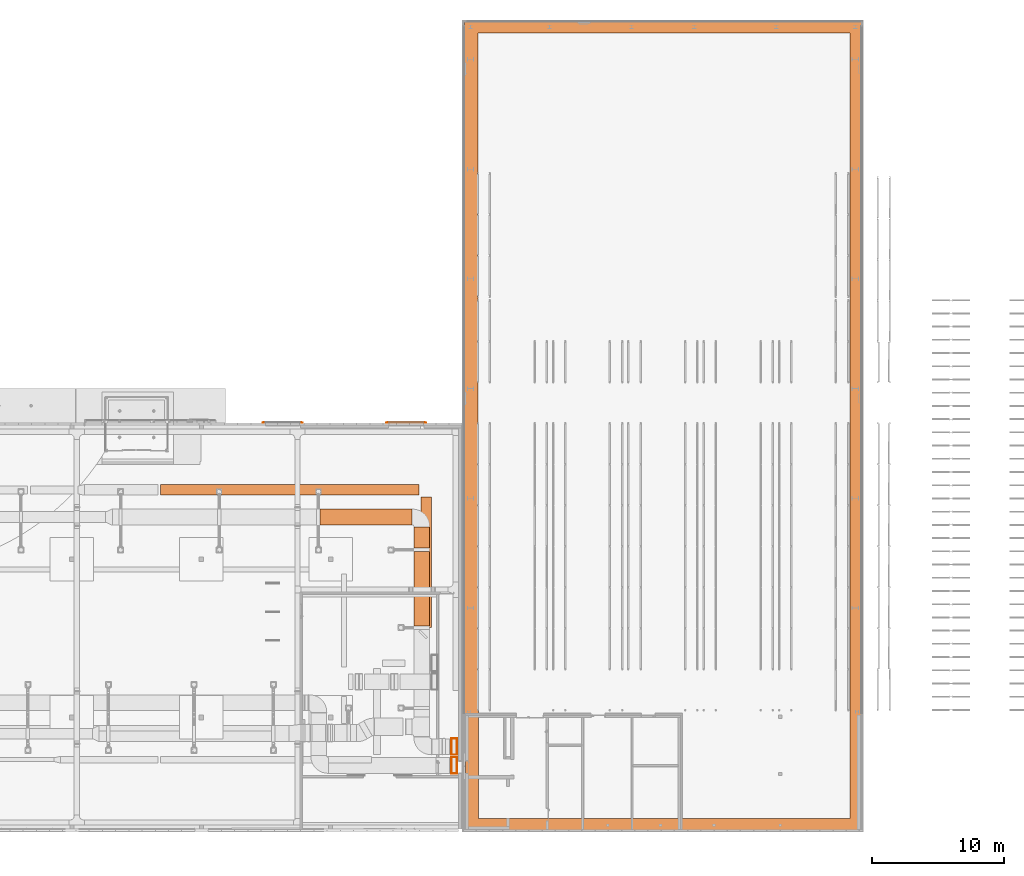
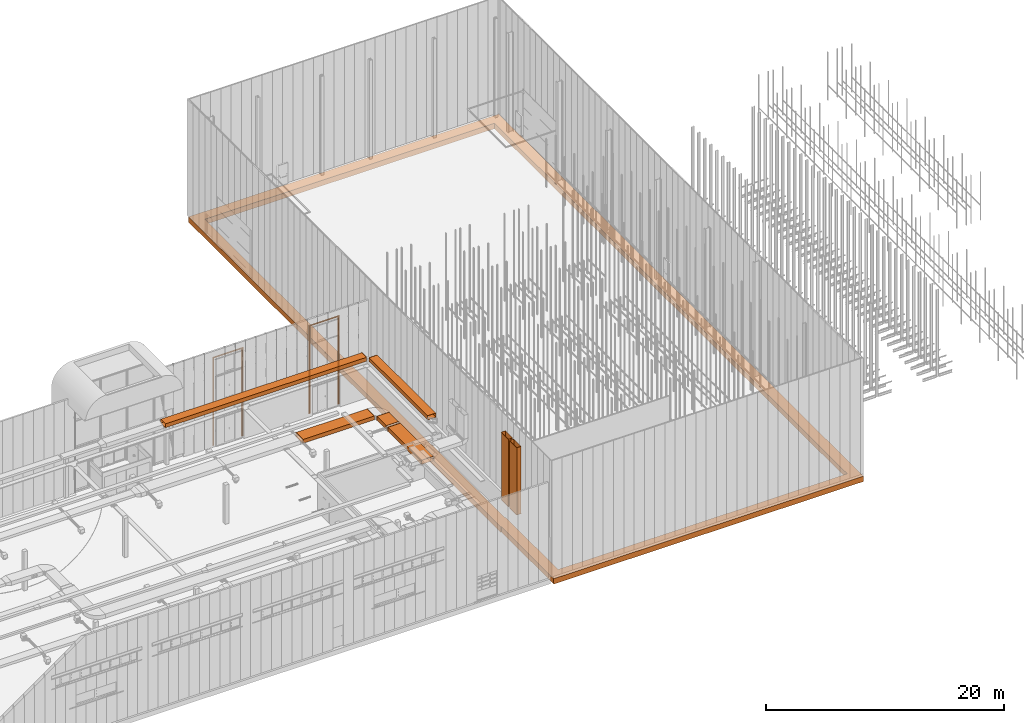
# One storey, part 301 of 302: 11 proxies.
"""IFC2X3 building model written with IfcOpenShell, lengths in metres."""

from ifc_helpers import new_model, entity, si_unit, converted_unit, derived_unit, direction, frame, origin, place, context, subcontext, project, spatial, face_set, faceted_brep, surface_model, source, transform, mapped, material, type_object, type_shapes, element, save


model = new_model("IFC2X3")

# Units and contexts
model_context = context("Model", 3, precision=1e-05, world=origin(), true_north=direction((6.12303176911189e-17, 1.0)))
body_context = subcontext(model_context, "Body", "Model", "MODEL_VIEW")
ifc_project = project(units=[si_unit("LENGTHUNIT", "METRE"), si_unit("AREAUNIT", "SQUARE_METRE"), si_unit("VOLUMEUNIT", "CUBIC_METRE"), converted_unit("PLANEANGLEUNIT", "DEGREE", entity("IfcRatioMeasure", 0.0174532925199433), si_unit("PLANEANGLEUNIT", "RADIAN"), dimensions=[0, 0, 0, 0, 0, 0, 0]), si_unit("MASSUNIT", "GRAM", prefix="KILO"), derived_unit("MASSDENSITYUNIT", [(si_unit("MASSUNIT", "GRAM", prefix="KILO"), 1), (si_unit("LENGTHUNIT", "METRE"), -3)]), derived_unit("MOMENTOFINERTIAUNIT", [(si_unit("LENGTHUNIT", "METRE"), 4)]), si_unit("TIMEUNIT", "SECOND"), si_unit("FREQUENCYUNIT", "HERTZ"), si_unit("THERMODYNAMICTEMPERATUREUNIT", "DEGREE_CELSIUS"), derived_unit("THERMALTRANSMITTANCEUNIT", [(si_unit("MASSUNIT", "GRAM", prefix="KILO"), 1), (si_unit("THERMODYNAMICTEMPERATUREUNIT", "KELVIN"), -1), (si_unit("TIMEUNIT", "SECOND"), -3)]), derived_unit("VOLUMETRICFLOWRATEUNIT", [(si_unit("LENGTHUNIT", "METRE"), 3), (si_unit("TIMEUNIT", "SECOND"), -1)]), si_unit("ELECTRICCURRENTUNIT", "AMPERE"), si_unit("ELECTRICVOLTAGEUNIT", "VOLT"), si_unit("POWERUNIT", "WATT"), si_unit("FORCEUNIT", "NEWTON", prefix="KILO"), si_unit("ILLUMINANCEUNIT", "LUX"), si_unit("LUMINOUSFLUXUNIT", "LUMEN"), si_unit("LUMINOUSINTENSITYUNIT", "CANDELA"), derived_unit("USERDEFINED", [(si_unit("MASSUNIT", "GRAM", prefix="KILO"), -1), (si_unit("LENGTHUNIT", "METRE"), -2), (si_unit("TIMEUNIT", "SECOND"), 3), (si_unit("LUMINOUSFLUXUNIT", "LUMEN"), 1)]), derived_unit("LINEARVELOCITYUNIT", [(si_unit("LENGTHUNIT", "METRE"), 1), (si_unit("TIMEUNIT", "SECOND"), -1)]), si_unit("PRESSUREUNIT", "PASCAL"), derived_unit("USERDEFINED", [(si_unit("LENGTHUNIT", "METRE"), -2), (si_unit("MASSUNIT", "GRAM", prefix="KILO"), 1), (si_unit("TIMEUNIT", "SECOND"), -2)]), derived_unit("LINEARFORCEUNIT", [(si_unit("MASSUNIT", "GRAM", prefix="KILO"), 1), (si_unit("LENGTHUNIT", "METRE"), 1), (si_unit("TIMEUNIT", "SECOND"), -2), (si_unit("LENGTHUNIT", "METRE"), -1)]), derived_unit("PLANARFORCEUNIT", [(si_unit("MASSUNIT", "GRAM", prefix="KILO"), 1), (si_unit("LENGTHUNIT", "METRE"), 1), (si_unit("TIMEUNIT", "SECOND"), -2), (si_unit("LENGTHUNIT", "METRE"), -2)])], contexts=[model_context])

# Site, building, storey
site_placement = place(None, origin())
site = spatial("IfcSite", under=ifc_project, at=site_placement, Name="Default", CompositionType="ELEMENT")
building_placement = place(site_placement, origin())
building = spatial("IfcBuilding", under=site, at=building_placement, CompositionType="ELEMENT")
storey_placement = place(building_placement, frame((0.0, 0.0, -1.3)))
storey = spatial("IfcBuildingStorey", under=building, at=storey_placement, Name="00_EG", CompositionType="ELEMENT", Elevation=-1.3)

# Proxies
ifc_material = material(Name="<Unnamed>")
building_element_proxy_type_1 = type_object("IfcBuildingElementProxyType", Name="Fesnterrahmen:Fesnterrahmen", PredefinedType="NOTDEFINED", material=ifc_material)
shared_shape_1 = source(origin(), body_context, "Body", "Brep", [
    faceted_brep([(2.92079999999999, 0.00500000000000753, 0.0), (3.01160000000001, 0.00499999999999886, 0.0), (3.01160000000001, 0.0, 0.0), (2.91580000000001, 0.0, 0.0), (2.91579999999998, 0.0300000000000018, 0.0), (2.82080000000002, 0.0300000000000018, 0.0), (2.82079999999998, 0.0350000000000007, 0.0), (2.92079999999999, 0.0350000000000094, 0.0), (2.92079999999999, 0.00500000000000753, 9.05964751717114), (0.090800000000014, 0.00500000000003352, 9.05964751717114), (0.090800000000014, 0.00500000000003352, 0.0), (0.0, 0.00499999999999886, 0.0), (0.0, 0.00499999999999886, 9.15044751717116), (3.01160000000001, 0.00499999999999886, 9.15044751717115), (3.01160000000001, 0.0, 9.15044751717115), (0.0, 0.0, 9.15044751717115), (0.0, 0.0, 0.0), (0.0957999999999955, 0.0, 0.0), (0.0957999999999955, 0.0, 9.05464751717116), (2.91580000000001, 0.0, 9.05464751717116), (2.91579999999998, 0.0300000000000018, 9.05464751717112), (0.0958000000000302, 0.0300000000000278, 9.05464751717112), (0.0958000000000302, 0.0300000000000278, 0.0), (0.190799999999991, 0.0300000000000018, 0.0), (0.190799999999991, 0.0300000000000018, 8.95964751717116), (2.82080000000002, 0.0300000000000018, 8.95964751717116), (2.82079999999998, 0.0350000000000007, 8.95964751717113), (0.190800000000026, 0.035000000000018, 8.95964751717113), (0.190800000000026, 0.035000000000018, 0.0), (0.090800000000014, 0.0350000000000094, 0.0), (0.090800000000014, 0.0350000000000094, 9.05964751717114), (2.92079999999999, 0.0350000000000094, 9.05964751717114)], [[[0, 1, 2, 3, 4, 5, 6, 7]], [[1, 0, 8, 9, 10, 11, 12, 13]], [[2, 1, 13, 14]], [[3, 2, 14, 15, 16, 17, 18, 19]], [[4, 3, 19, 20]], [[5, 4, 20, 21, 22, 23, 24, 25]], [[6, 5, 25, 26]], [[7, 6, 26, 27, 28, 29, 30, 31]], [[0, 7, 31, 8]], [[14, 13, 12, 15]], [[20, 19, 18, 21]], [[26, 25, 24, 27]], [[8, 31, 30, 9]], [[10, 29, 28, 23, 22, 17, 16, 11]], [[15, 12, 11, 16]], [[21, 18, 17, 22]], [[27, 24, 23, 28]], [[9, 30, 29, 10]]]),
])
type_shapes(building_element_proxy_type_1, [shared_shape_1])
proxy_1_placement = place(storey_placement, frame((-213.360911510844, 45.738088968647, 1.27)))
element("IfcBuildingElementProxy", 1, at=proxy_1_placement, inside=storey, type_object=building_element_proxy_type_1, material=ifc_material, Name="Fesnterrahmen:Fesnterrahmen", ObjectType="Fesnterrahmen:Fesnterrahmen", context=body_context, shape_type="MappedRepresentation", body=[
    mapped(shared_shape_1, transform((0.0, 0.0, 0.0), scale=1.0)),
])
building_element_proxy_type_2 = type_object("IfcBuildingElementProxyType", Name="Fesnterrahmen1:Fesnterrahmen", PredefinedType="NOTDEFINED", material=ifc_material)
shared_shape_2 = source(origin(), body_context, "Body", "Brep", [
    faceted_brep([(2.92079999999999, 0.00500000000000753, 0.0), (3.01160000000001, 0.00499999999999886, 0.0), (3.01160000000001, 0.0, 0.0), (2.91580000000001, 0.0, 0.0), (2.91579999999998, 0.0300000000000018, 0.0), (2.82080000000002, 0.0300000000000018, 0.0), (2.82079999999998, 0.0350000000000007, 0.0), (2.92079999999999, 0.0350000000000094, 0.0), (2.92079999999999, 0.00500000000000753, 9.05964751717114), (0.090800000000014, 0.00500000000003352, 9.05964751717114), (0.090800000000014, 0.00500000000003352, 0.0), (0.0, 0.00499999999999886, 0.0), (0.0, 0.00499999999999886, 9.15044751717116), (3.01160000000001, 0.00499999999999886, 9.15044751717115), (3.01160000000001, 0.0, 9.15044751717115), (0.0, 0.0, 9.15044751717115), (0.0, 0.0, 0.0), (0.0957999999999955, 0.0, 0.0), (0.0957999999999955, 0.0, 9.05464751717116), (2.91580000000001, 0.0, 9.05464751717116), (2.91579999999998, 0.0300000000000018, 9.05464751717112), (0.0958000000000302, 0.0300000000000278, 9.05464751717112), (0.0958000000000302, 0.0300000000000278, 0.0), (0.190799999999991, 0.0300000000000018, 0.0), (0.190799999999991, 0.0300000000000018, 8.95964751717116), (2.82080000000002, 0.0300000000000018, 8.95964751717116), (2.82079999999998, 0.0350000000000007, 8.95964751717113), (0.190800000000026, 0.035000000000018, 8.95964751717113), (0.190800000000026, 0.035000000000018, 0.0), (0.090800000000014, 0.0350000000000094, 0.0), (0.090800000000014, 0.0350000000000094, 9.05964751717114), (2.92079999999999, 0.0350000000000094, 9.05964751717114)], [[[0, 1, 2, 3, 4, 5, 6, 7]], [[1, 0, 8, 9, 10, 11, 12, 13]], [[2, 1, 13, 14]], [[3, 2, 14, 15, 16, 17, 18, 19]], [[4, 3, 19, 20]], [[5, 4, 20, 21, 22, 23, 24, 25]], [[6, 5, 25, 26]], [[7, 6, 26, 27, 28, 29, 30, 31]], [[0, 7, 31, 8]], [[14, 13, 12, 15]], [[20, 19, 18, 21]], [[26, 25, 24, 27]], [[8, 31, 30, 9]], [[10, 29, 28, 23, 22, 17, 16, 11]], [[15, 12, 11, 16]], [[21, 18, 17, 22]], [[27, 24, 23, 28]], [[9, 30, 29, 10]]]),
])
type_shapes(building_element_proxy_type_2, [shared_shape_2])
proxy_2_placement = place(storey_placement, frame((-222.710911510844, 45.738088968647, 1.27)))
element("IfcBuildingElementProxy", 2, at=proxy_2_placement, inside=storey, type_object=building_element_proxy_type_2, material=ifc_material, Name="Fesnterrahmen1:Fesnterrahmen", ObjectType="Fesnterrahmen1:Fesnterrahmen", context=body_context, shape_type="MappedRepresentation", body=[
    mapped(shared_shape_2, transform((0.0, 0.0, 0.0), scale=1.0)),
])
building_element_proxy_type_3 = type_object("IfcBuildingElementProxyType", Name="Fesnterrahmen2:Fesnterrahmen", PredefinedType="NOTDEFINED", material=ifc_material)
shared_shape_3 = source(origin(), body_context, "Body", "Brep", [
    faceted_brep([(2.92079999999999, 0.00500000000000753, 0.0), (3.01160000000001, 0.00499999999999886, 0.0), (3.01160000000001, 0.0, 0.0), (2.91580000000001, 0.0, 0.0), (2.91579999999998, 0.0300000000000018, 0.0), (2.82080000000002, 0.0300000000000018, 0.0), (2.82079999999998, 0.0350000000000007, 0.0), (2.92079999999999, 0.0350000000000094, 0.0), (2.92079999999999, 0.00500000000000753, 9.05964751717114), (0.090800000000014, 0.00500000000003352, 9.05964751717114), (0.090800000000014, 0.00500000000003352, 0.0), (0.0, 0.00499999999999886, 0.0), (0.0, 0.00499999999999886, 9.15044751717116), (3.01160000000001, 0.00499999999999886, 9.15044751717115), (3.01160000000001, 0.0, 9.15044751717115), (0.0, 0.0, 9.15044751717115), (0.0, 0.0, 0.0), (0.0957999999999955, 0.0, 0.0), (0.0957999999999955, 0.0, 9.05464751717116), (2.91580000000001, 0.0, 9.05464751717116), (2.91579999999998, 0.0300000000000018, 9.05464751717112), (0.0958000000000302, 0.0300000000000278, 9.05464751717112), (0.0958000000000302, 0.0300000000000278, 0.0), (0.190799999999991, 0.0300000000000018, 0.0), (0.190799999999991, 0.0300000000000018, 8.95964751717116), (2.82080000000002, 0.0300000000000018, 8.95964751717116), (2.82079999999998, 0.0350000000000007, 8.95964751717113), (0.190800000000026, 0.035000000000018, 8.95964751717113), (0.190800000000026, 0.035000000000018, 0.0), (0.090800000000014, 0.0350000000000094, 0.0), (0.090800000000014, 0.0350000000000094, 9.05964751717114), (2.92079999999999, 0.0350000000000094, 9.05964751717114)], [[[0, 1, 2, 3, 4, 5, 6, 7]], [[1, 0, 8, 9, 10, 11, 12, 13]], [[2, 1, 13, 14]], [[3, 2, 14, 15, 16, 17, 18, 19]], [[4, 3, 19, 20]], [[5, 4, 20, 21, 22, 23, 24, 25]], [[6, 5, 25, 26]], [[7, 6, 26, 27, 28, 29, 30, 31]], [[0, 7, 31, 8]], [[14, 13, 12, 15]], [[20, 19, 18, 21]], [[26, 25, 24, 27]], [[8, 31, 30, 9]], [[10, 29, 28, 23, 22, 17, 16, 11]], [[15, 12, 11, 16]], [[21, 18, 17, 22]], [[27, 24, 23, 28]], [[9, 30, 29, 10]]]),
])
type_shapes(building_element_proxy_type_3, [shared_shape_3])
proxy_3_placement = place(storey_placement, frame((-213.360911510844, 45.738088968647, 1.27000000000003)))
element("IfcBuildingElementProxy", 3, at=proxy_3_placement, inside=storey, type_object=building_element_proxy_type_3, material=ifc_material, Name="Fesnterrahmen2:Fesnterrahmen", ObjectType="Fesnterrahmen2:Fesnterrahmen", context=body_context, shape_type="MappedRepresentation", body=[
    mapped(shared_shape_3, transform((0.0, 0.0, 0.0), scale=1.0)),
])
building_element_proxy_type_4 = type_object("IfcBuildingElementProxyType", Name="Plattenkante:Streifenfundament 550x1000", PredefinedType="NOTDEFINED")
proxy_4_placement = place(storey_placement, frame((-207.440723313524, 14.818088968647, 0.47)))
element("IfcBuildingElementProxy", 4, at=proxy_4_placement, inside=storey, type_object=building_element_proxy_type_4, Name="Plattenkante:Streifenfundament 550x1000", ObjectType="Plattenkante:Streifenfundament 550x1000", context=body_context, shape_type="Brep", body=[
    faceted_brep([(29.1706118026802, 1.0, 0.549999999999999), (30.1706118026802, 0.0, 0.549999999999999), (30.1706118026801, 61.39, 0.549999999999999), (29.1706118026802, 60.39, 0.549999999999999), (29.1706118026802, 1.0, 0.0), (29.1706118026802, 60.39, 0.0), (30.1706118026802, 0.0, 0.0), (30.1706118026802, 61.3900000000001, 0.0), (1.06061180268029, 9.81000000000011, 0.549999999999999), (0.0606118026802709, 8.81000000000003, 0.549999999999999), (0.0606118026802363, 0.0, 0.549999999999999), (1.06061180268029, 1.0, 0.549999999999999), (1.06061180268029, 9.81000000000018, 0.0), (1.06061180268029, 1.0, 0.0), (0.0606118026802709, 8.81000000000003, 0.0), (0.0606118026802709, 0.0, 0.0), (1.0, 9.81000000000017, 0.549999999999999), (0.0, 8.81000000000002, 0.549999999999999), (1.0, 9.81000000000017, 0.0), (0.0, 8.81000000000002, 0.0), (1.0, 60.3899999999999, 0.549999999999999), (0.0, 61.39, 0.549999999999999), (1.0, 60.39, 0.0), (0.0, 61.39, 0.0)], [[[0, 1, 2, 3]], [[4, 0, 3, 5]], [[6, 4, 5, 7]], [[1, 6, 7, 2]], [[8, 9, 10, 11]], [[12, 8, 11, 13]], [[14, 12, 13, 15]], [[9, 14, 15, 10]], [[16, 17, 9, 8]], [[18, 16, 8, 12]], [[19, 18, 12, 14]], [[17, 19, 14, 9]], [[20, 21, 17, 16]], [[22, 20, 16, 18]], [[23, 22, 18, 19]], [[21, 23, 19, 17]], [[3, 2, 21, 20]], [[5, 3, 20, 22]], [[7, 5, 22, 23]], [[2, 7, 23, 21]], [[11, 10, 1, 0]], [[13, 11, 0, 4]], [[15, 13, 4, 6]], [[10, 15, 6, 1]]]),
])
building_element_proxy_type_5 = type_object("IfcBuildingElementProxyType", Name="Straight:Vorgabe", PredefinedType="NOTDEFINED")
proxy_5_placement = place(storey_placement, frame((-218.375835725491, 37.9828257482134, 4.68460000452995)))
element("IfcBuildingElementProxy", 5, at=proxy_5_placement, inside=storey, type_object=building_element_proxy_type_5, Name="Straight:Vorgabe", ObjectType="Straight:Vorgabe", context=body_context, shape_type="SurfaceModel", body=[
    surface_model("IfcFaceBasedSurfaceModel", [(6.94129492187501, 1.22540005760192, 0.425399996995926), (6.10352426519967e-09, 1.22540005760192, 0.425399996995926), (6.10352426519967e-09, 0.0254000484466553, 0.425399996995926), (6.94129492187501, 0.0254000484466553, 0.425399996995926), (6.10352426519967e-09, 0.0254000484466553, 0.0253999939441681), (6.94129492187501, 0.0254000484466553, 0.0253999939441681), (6.10352426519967e-09, 1.22540005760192, 0.0253999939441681), (6.94129492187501, 1.22540005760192, 0.0253999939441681), (6.94129392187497, 1.25080010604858, 0.0), (6.94129392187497, 1.25080010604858, 0.450799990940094), (6.94129392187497, 0.0, 0.450799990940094), (6.94129392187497, 0.0, 0.0), (1.1688232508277e-06, 0.0, 0.0), (1.1688232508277e-06, 0.0, 0.450799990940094), (1.1688232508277e-06, 1.25080010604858, 0.450799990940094), (1.1688232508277e-06, 1.25080010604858, 0.0)], [face_set([[[0, 1, 2]], [[2, 3, 0]], [[3, 2, 4]], [[4, 5, 3]], [[5, 4, 6]], [[6, 7, 5]], [[7, 6, 1]], [[1, 0, 7]], [[8, 7, 0]], [[0, 9, 8]], [[9, 0, 3]], [[3, 10, 9]], [[10, 3, 5]], [[5, 11, 10]], [[11, 5, 7]], [[7, 8, 11]], [[12, 4, 2]], [[2, 13, 12]], [[13, 2, 1]], [[1, 14, 13]], [[14, 1, 6]], [[6, 15, 14]], [[15, 6, 4]], [[4, 12, 15]]])]),
])
building_element_proxy_type_6 = type_object("IfcBuildingElementProxyType", Name="Straight:Vorgabe", PredefinedType="NOTDEFINED")
proxy_6_placement = place(storey_placement, frame((-208.455893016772, 19.1975562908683, 5.26499999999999)))
element("IfcBuildingElementProxy", 6, at=proxy_6_placement, inside=storey, type_object=building_element_proxy_type_6, Name="Straight:Vorgabe", ObjectType="Straight:Vorgabe", context=body_context, shape_type="SurfaceModel", body=[
    surface_model("IfcFaceBasedSurfaceModel", [(0.425399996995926, 1.22540005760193, 6.92699137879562), (0.425399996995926, 1.22540005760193, 2.41100302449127e-07), (0.0253999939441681, 1.22540005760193, 2.41100302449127e-07), (0.0253999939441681, 1.22540005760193, 6.92699137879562), (0.0253999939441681, 0.0254000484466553, 2.41100302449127e-07), (0.0253999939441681, 0.0254000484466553, 6.92699137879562), (0.425399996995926, 0.0254000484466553, 2.41100302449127e-07), (0.425399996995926, 0.0254000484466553, 6.92699137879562), (0.450799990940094, 0.0, 6.92699037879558), (0.450799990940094, 1.25080010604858, 6.92699037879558), (0.0, 1.25080010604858, 6.92699037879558), (0.0, 0.0, 6.92699037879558), (0.0, 0.0, 1.40382002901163e-06), (0.0, 1.25080010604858, 1.40382002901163e-06), (0.450799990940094, 1.25080010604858, 1.40382002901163e-06), (0.450799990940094, 0.0, 1.40382002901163e-06)], [face_set([[[0, 1, 2]], [[2, 3, 0]], [[3, 2, 4]], [[4, 5, 3]], [[5, 4, 6]], [[6, 7, 5]], [[7, 6, 1]], [[1, 0, 7]], [[8, 7, 0]], [[0, 9, 8]], [[9, 0, 3]], [[3, 10, 9]], [[10, 3, 5]], [[5, 11, 10]], [[11, 5, 7]], [[7, 8, 11]], [[12, 4, 2]], [[2, 13, 12]], [[13, 2, 1]], [[1, 14, 13]], [[14, 1, 6]], [[6, 15, 14]], [[15, 6, 4]], [[4, 12, 15]]])]),
])
building_element_proxy_type_7 = type_object("IfcBuildingElementProxyType", Name="Straight:Vorgabe", PredefinedType="NOTDEFINED")
proxy_7_placement = place(storey_placement, frame((-208.455893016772, 20.6086138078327, 5.26499999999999)))
element("IfcBuildingElementProxy", 7, at=proxy_7_placement, inside=storey, type_object=building_element_proxy_type_7, Name="Straight:Vorgabe", ObjectType="Straight:Vorgabe", context=body_context, shape_type="SurfaceModel", body=[
    surface_model("IfcFaceBasedSurfaceModel", [(0.425399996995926, 1.22540005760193, 6.92699137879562), (0.425399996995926, 1.22540005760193, 2.41100302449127e-07), (0.0253999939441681, 1.22540005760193, 2.41100302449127e-07), (0.0253999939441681, 1.22540005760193, 6.92699137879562), (0.0253999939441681, 0.0254000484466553, 2.41100302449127e-07), (0.0253999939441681, 0.0254000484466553, 6.92699137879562), (0.425399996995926, 0.0254000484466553, 2.41100302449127e-07), (0.425399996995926, 0.0254000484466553, 6.92699137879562), (0.450799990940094, 0.0, 6.92699037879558), (0.450799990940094, 1.25080010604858, 6.92699037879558), (0.0, 1.25080010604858, 6.92699037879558), (0.0, 0.0, 6.92699037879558), (0.0, 0.0, 1.40382002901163e-06), (0.0, 1.25080010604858, 1.40382002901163e-06), (0.450799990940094, 1.25080010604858, 1.40382002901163e-06), (0.450799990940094, 0.0, 1.40382002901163e-06)], [face_set([[[0, 1, 2]], [[2, 3, 0]], [[3, 2, 4]], [[4, 5, 3]], [[5, 4, 6]], [[6, 7, 5]], [[7, 6, 1]], [[1, 0, 7]], [[8, 7, 0]], [[0, 9, 8]], [[9, 0, 3]], [[3, 10, 9]], [[10, 3, 5]], [[5, 11, 10]], [[11, 5, 7]], [[7, 8, 11]], [[12, 4, 2]], [[2, 13, 12]], [[13, 2, 1]], [[1, 14, 13]], [[14, 1, 6]], [[6, 15, 14]], [[15, 6, 4]], [[4, 12, 15]]])]),
])
building_element_proxy_type_8 = type_object("IfcBuildingElementProxyType", Name="Straight:Vorgabe", PredefinedType="NOTDEFINED")
proxy_8_placement = place(storey_placement, frame((-211.304940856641, 30.3623330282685, 4.68460000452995)))
element("IfcBuildingElementProxy", 8, at=proxy_8_placement, inside=storey, type_object=building_element_proxy_type_8, Name="Straight:Vorgabe", ObjectType="Straight:Vorgabe", context=body_context, shape_type="SurfaceModel", body=[
    surface_model("IfcFaceBasedSurfaceModel", [(1.22540005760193, 0.0, 0.425399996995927), (1.22540005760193, 5.63661583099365, 0.425399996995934), (0.0254000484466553, 5.63661583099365, 0.425399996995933), (0.0254000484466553, 0.0, 0.425399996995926), (0.0254000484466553, 5.63661583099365, 0.0253999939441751), (0.0254000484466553, 0.0, 0.0253999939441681), (1.22540005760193, 5.63661583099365, 0.0253999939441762), (1.22540005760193, 0.0, 0.0253999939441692), (1.25080010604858, 1.00000003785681e-06, 0.0), (1.25080010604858, 1.00000003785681e-06, 0.450799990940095), (0.0, 1.00000003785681e-06, 0.450799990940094), (0.0, 1.00000003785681e-06, 0.0), (0.0, 5.63661466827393, 0.0), (0.0, 5.63661466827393, 0.450799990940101), (1.25080010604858, 5.63661466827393, 0.450799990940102), (1.25080010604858, 5.63661466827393, 0.0)], [face_set([[[0, 1, 2]], [[2, 3, 0]], [[3, 2, 4]], [[4, 5, 3]], [[5, 4, 6]], [[6, 7, 5]], [[7, 6, 1]], [[1, 0, 7]], [[8, 7, 0]], [[0, 9, 8]], [[9, 0, 3]], [[3, 10, 9]], [[10, 3, 5]], [[5, 11, 10]], [[11, 5, 7]], [[7, 8, 11]], [[12, 4, 2]], [[2, 13, 12]], [[13, 2, 1]], [[1, 14, 13]], [[14, 1, 6]], [[6, 15, 14]], [[15, 6, 4]], [[4, 12, 15]]])]),
])
building_element_proxy_type_9 = type_object("IfcBuildingElementProxyType", Name="Straight:Vorgabe", PredefinedType="NOTDEFINED")
proxy_9_placement = place(storey_placement, frame((-211.304940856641, 36.2489488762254, 4.68460000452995)))
element("IfcBuildingElementProxy", 9, at=proxy_9_placement, inside=storey, type_object=building_element_proxy_type_9, Name="Straight:Vorgabe", ObjectType="Straight:Vorgabe", context=body_context, shape_type="SurfaceModel", body=[
    surface_model("IfcFaceBasedSurfaceModel", [(1.22540005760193, 0.0, 0.42539999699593), (1.22540005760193, 1.60427693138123, 0.425399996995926), (0.0254000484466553, 1.60427693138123, 0.425399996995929), (0.0254000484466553, 0.0, 0.425399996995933), (0.0254000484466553, 1.60427693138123, 0.0253999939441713), (0.0254000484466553, 0.0, 0.0253999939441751), (1.22540005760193, 1.60427693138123, 0.0253999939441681), (1.22540005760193, 0.0, 0.0253999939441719), (1.25080010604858, 1.00000003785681e-06, 0.0), (1.25080010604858, 1.00000003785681e-06, 0.450799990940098), (0.0, 1.00000003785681e-06, 0.450799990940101), (0.0, 1.00000003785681e-06, 0.0), (0.0, 1.60427591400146, 0.0), (0.0, 1.60427591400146, 0.450799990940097), (1.25080010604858, 1.60427591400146, 0.450799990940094), (1.25080010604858, 1.60427591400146, 0.0)], [face_set([[[0, 1, 2]], [[2, 3, 0]], [[3, 2, 4]], [[4, 5, 3]], [[5, 4, 6]], [[6, 7, 5]], [[7, 6, 1]], [[1, 0, 7]], [[8, 7, 0]], [[0, 9, 8]], [[9, 0, 3]], [[3, 10, 9]], [[10, 3, 5]], [[5, 11, 10]], [[11, 5, 7]], [[7, 8, 11]], [[12, 4, 2]], [[2, 13, 12]], [[13, 2, 1]], [[1, 14, 13]], [[14, 1, 6]], [[6, 15, 14]], [[15, 6, 4]], [[4, 12, 15]]])]),
])
building_element_proxy_type_10 = type_object("IfcBuildingElementProxyType", Name="Straight:Vorgabe", PredefinedType="NOTDEFINED")
proxy_10_placement = place(storey_placement, frame((-210.756426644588, 30.239865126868, 9.15460000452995)))
element("IfcBuildingElementProxy", 10, at=proxy_10_placement, inside=storey, type_object=building_element_proxy_type_10, Name="Straight:Vorgabe", ObjectType="Straight:Vorgabe", context=body_context, shape_type="SurfaceModel", body=[
    surface_model("IfcFaceBasedSurfaceModel", [(0.825399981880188, 0.0, 0.425399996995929), (0.825399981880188, 9.86521760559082, 0.425399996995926), (0.0253999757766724, 9.86521760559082, 0.425399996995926), (0.0253999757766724, 0.0, 0.425399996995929), (0.0253999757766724, 9.86521760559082, 0.0253999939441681), (0.0253999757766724, 0.0, 0.0253999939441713), (0.825399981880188, 9.86521760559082, 0.0253999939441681), (0.825399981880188, 0.0, 0.0253999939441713), (0.85079995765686, 1.00000003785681e-06, 0.0), (0.85079995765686, 1.00000003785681e-06, 0.450799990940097), (0.0, 1.00000003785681e-06, 0.450799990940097), (0.0, 1.00000003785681e-06, 0.0), (0.0, 9.86521644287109, 0.0), (0.0, 9.86521644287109, 0.450799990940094), (0.85079995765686, 9.86521644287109, 0.450799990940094), (0.85079995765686, 9.86521644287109, 0.0)], [face_set([[[0, 1, 2]], [[2, 3, 0]], [[3, 2, 4]], [[4, 5, 3]], [[5, 4, 6]], [[6, 7, 5]], [[7, 6, 1]], [[1, 0, 7]], [[8, 7, 0]], [[0, 9, 8]], [[9, 0, 3]], [[3, 10, 9]], [[10, 3, 5]], [[5, 11, 10]], [[11, 5, 7]], [[7, 8, 11]], [[12, 4, 2]], [[2, 13, 12]], [[13, 2, 1]], [[1, 14, 13]], [[14, 1, 6]], [[6, 15, 14]], [[15, 6, 4]], [[4, 12, 15]]])]),
])
building_element_proxy_type_11 = type_object("IfcBuildingElementProxyType", Name="Straight:Vorgabe", PredefinedType="NOTDEFINED")
proxy_11_placement = place(storey_placement, frame((-230.440041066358, 40.2346826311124, 9.15460000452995)))
element("IfcBuildingElementProxy", 11, at=proxy_11_placement, inside=storey, type_object=building_element_proxy_type_11, Name="Straight:Vorgabe", ObjectType="Straight:Vorgabe", context=body_context, shape_type="SurfaceModel", body=[
    surface_model("IfcFaceBasedSurfaceModel", [(19.5540144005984, 0.825399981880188, 0.425399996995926), (9.78967570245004e-07, 0.825399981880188, 0.425399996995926), (9.78967570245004e-07, 0.0253999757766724, 0.425399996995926), (19.5540144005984, 0.0253999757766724, 0.425399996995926), (9.78967570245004e-07, 0.0253999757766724, 0.0253999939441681), (19.5540144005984, 0.0253999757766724, 0.0253999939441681), (9.78967570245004e-07, 0.825399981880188, 0.0253999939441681), (19.5540144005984, 0.825399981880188, 0.0253999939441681), (19.5540134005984, 0.85079995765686, 0.0), (19.5540134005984, 0.85079995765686, 0.450799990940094), (19.5540134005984, 0.0, 0.450799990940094), (19.5540134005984, 0.0, 0.0), (9.78967570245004e-07, 0.0, 0.0), (9.78967570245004e-07, 0.0, 0.450799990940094), (9.78967570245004e-07, 0.85079995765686, 0.450799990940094), (9.78967570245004e-07, 0.85079995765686, 0.0)], [face_set([[[0, 1, 2]], [[2, 3, 0]], [[3, 2, 4]], [[4, 5, 3]], [[5, 4, 6]], [[6, 7, 5]], [[7, 6, 1]], [[1, 0, 7]], [[8, 7, 0]], [[0, 9, 8]], [[9, 0, 3]], [[3, 10, 9]], [[10, 3, 5]], [[5, 11, 10]], [[11, 5, 7]], [[7, 8, 11]], [[12, 4, 2]], [[2, 13, 12]], [[13, 2, 1]], [[1, 14, 13]], [[14, 1, 6]], [[6, 15, 14]], [[15, 6, 4]], [[4, 12, 15]]])]),
])

save(model, "model.ifc")
